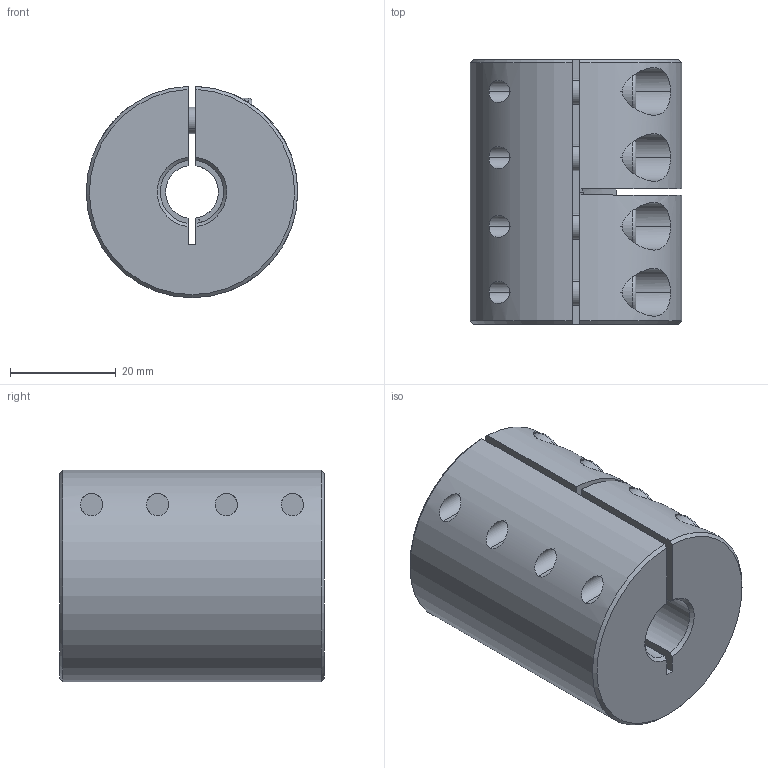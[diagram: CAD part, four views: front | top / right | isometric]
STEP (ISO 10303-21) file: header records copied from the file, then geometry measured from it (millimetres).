
FILE_DESCRIPTION (( 'STEP AP214' ), '1' );
FILE_NAME ('LL-B-D40L50-10-12½¨Ä£.STEP', '2022-07-22T00:16:21', ( '' ), ( '' ), 'SwSTEP 2.0', 'SolidWorks 2022', '' );
FILE_SCHEMA (( 'AUTOMOTIVE_DESIGN' ));
Length unit declared in the file: millimetre
Products named in the file (1): LL-B-D40L50-10-12膘耀
Bounding box: 40 x 50 x 39.99 mm (x, y, z)
Volume: 54528.8 mm3; surface area: 15546.5 mm2
Topology: 1 solids, 1 shells, 182 faces, 463 edges, 291 vertices
Faces by surface type: plane 88, cylinder 71, cone 15, torus 8
Entity records: 6015 total; most frequent: CARTESIAN_POINT 1525, DIRECTION 971, ORIENTED_EDGE 910, EDGE_CURVE 455, AXIS2_PLACEMENT_3D 377, VERTEX_POINT 291, VECTOR 217, LINE 217
